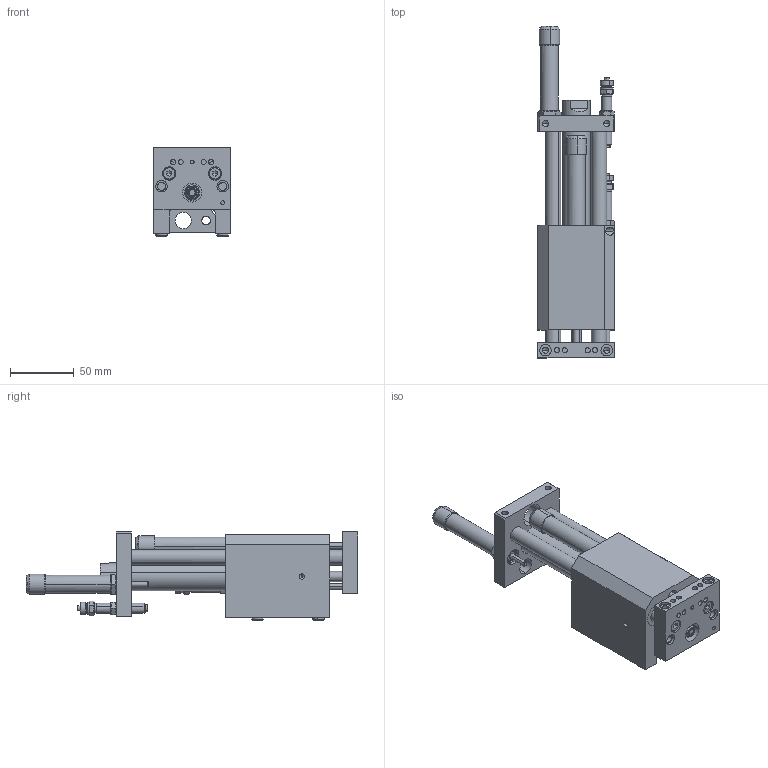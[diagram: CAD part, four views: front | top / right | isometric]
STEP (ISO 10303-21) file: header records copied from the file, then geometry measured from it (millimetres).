
FILE_DESCRIPTION((''),'2;1');
FILE_NAME('V:\CAD\Inventor-Stp\Iam-Ipt-neu\MLE 16 in\stp\06-02-000.stp','2003-10-17T08:36:32',('is'),(''),'Autodesk Inventor (R) 6.0','Autodesk Inventor (R) 6.0','');
FILE_SCHEMA(('CONFIG_CONTROL_DESIGN'));
Length unit declared in the file: millimetre
Products named in the file (3): Baugruppe2; 06-02-000-b; 06-02-000-a
Assembly tree (2 placements, depth 2):
  Baugruppe2
    06-02-000-b
    06-02-000-a
Bounding box: 60.24 x 260.7 x 69.12 mm (x, y, z)
Volume: 376994.8 mm3; surface area: 131450.1 mm2
Topology: 2 solids, 44 shells, 1181 faces, 2840 edges, 1804 vertices
Faces by surface type: bspline 371, plane 289, cylinder 255, cone 228, torus 38
Entity records: 41717 total; most frequent: CARTESIAN_POINT 14493, DIRECTION 5708, ORIENTED_EDGE 5596, EDGE_CURVE 2798, AXIS2_PLACEMENT_3D 2351, VERTEX_POINT 1804, CIRCLE 1526, EDGE_LOOP 1412
